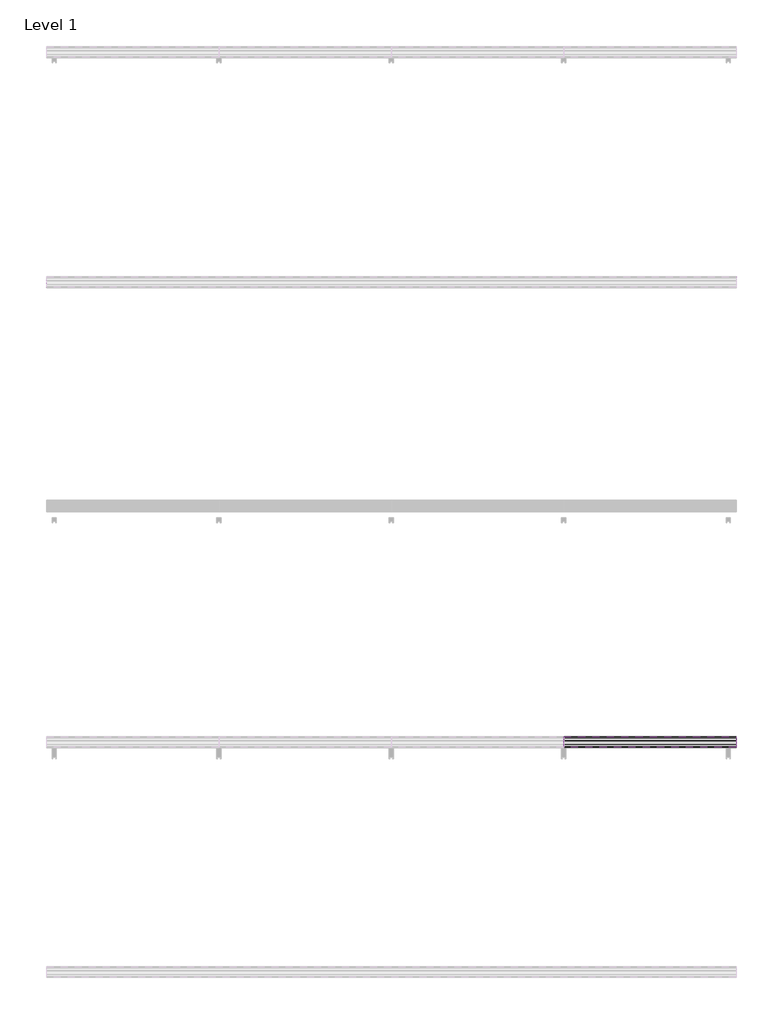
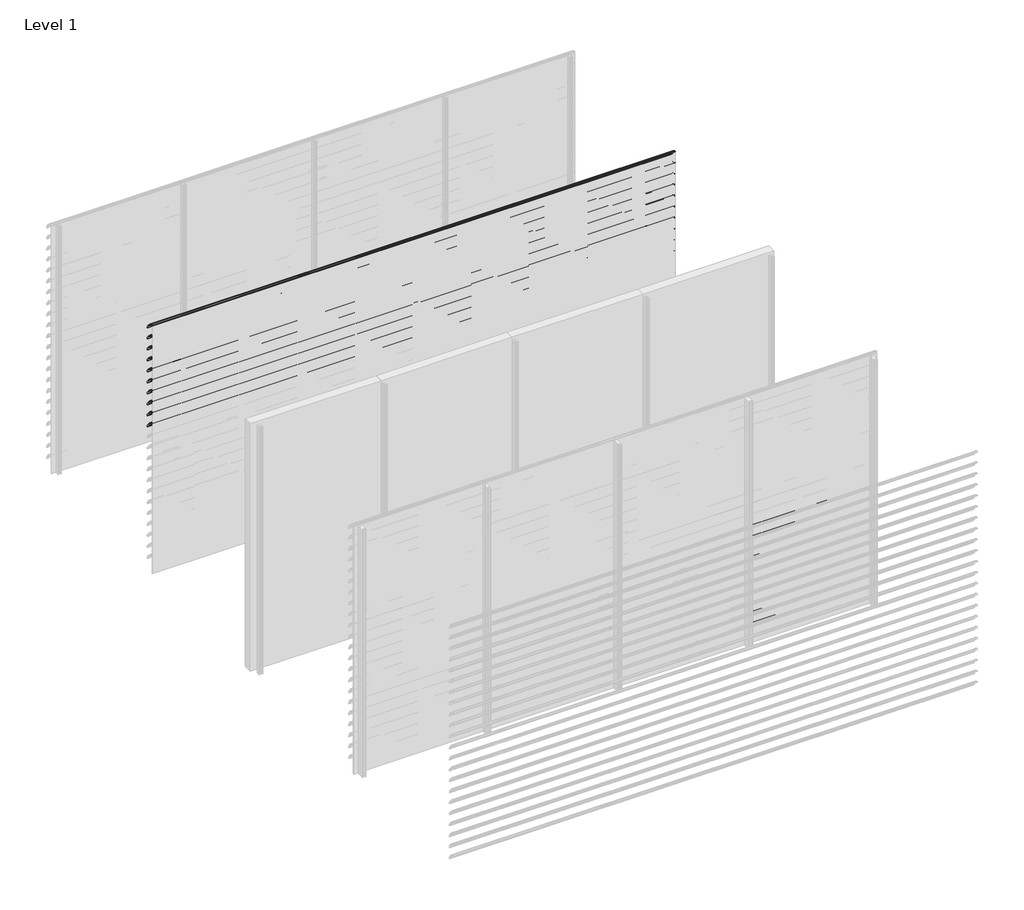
# One storey, part 41 of 57: 20 proxies.
"""IFC4 building model written with IfcOpenShell, lengths in millimetres."""

from ifc_helpers import new_model, si_unit, point, frame, frame_2d, origin, place, context, project, spatial, polyline, circle_curve, trimmed, segment, composite_curve, outline, extrude, element, save

model = new_model("IFC4")

# Units and contexts
model_context = context("Model", 3, world=origin())
ifc_project = project(units=[si_unit("LENGTHUNIT", "METRE", prefix="MILLI")], contexts=[model_context])

# Site, building, storey
site = spatial("IfcSite", under=ifc_project)
building = spatial("IfcBuilding", under=site)
storey = spatial("IfcBuildingStorey", under=building, Name="Level 1", Elevation=0.0)

# Proxies
placement = place(None, origin())
element("IfcBuildingElementProxy", 1, Name="Wall Sweeps", at=placement, inside=storey, context=model_context, shape_type="SweptSolid", body=[
    extrude(outline(composite_curve([segment(trimmed(circle_curve(frame_2d((-13993.7822526, 3016.4913792)), 4.2177474), [point((-13989.6985606, 3017.5462976))], [point((-13993.7822526, 3020.7091266))], False, "CARTESIAN"), True, "CONTINUOUS"), segment(trimmed(circle_curve(frame_2d((-14018.7150834, 2918.2536312)), 105.4456002), [point((-13993.7822526, 3020.7091266))], [point((-13971.7914298, 3012.6832099))], False, "CARTESIAN"), True, "CONTINUOUS"), segment(trimmed(circle_curve(frame_2d((-14061.7199745, 2864.0352476)), 173.7335887), [point((-13971.7914298, 3012.6832099))], [point((-13913.0720121, 2953.9637922))], False, "CARTESIAN"), True, "CONTINUOUS"), segment(trimmed(circle_curve(frame_2d((-14004.9297178, 2902.1860314)), 105.4456002), [point((-13913.0720121, 2953.9637922))], [point((-13903.6249616, 2931.4455765))], False, "CARTESIAN"), True, "CONTINUOUS"), segment(trimmed(circle_curve(frame_2d((-13907.809737, 2930.3307305)), 4.3307305), [point((-13903.6249616, 2931.4455765))], [point((-13909.0769196, 2926.189538))], False, "CARTESIAN"), True, "CONTINUOUS"), segment(polyline([(-13909.0769196, 2926.189538), (-13934.7401984, 2950.9722783)]), True, "CONTINUOUS"), segment(trimmed(circle_curve(frame_2d((-13931.3879574, 2953.2977626)), 4.079877), [point((-13934.7401984, 2950.9722783))], [point((-13930.7310597, 2957.3244091))], False, "CARTESIAN"), True, "CONTINUOUS"), segment(trimmed(circle_curve(frame_2d((-14014.6665585, 2935.2544323)), 86.7885467), [point((-13930.7310597, 2957.3244091))], [point((-13942.3028351, 2983.1683485))], True, "CARTESIAN"), True, "CONTINUOUS"), segment(polyline([(-13942.3028351, 2983.1683485), (-13940.7230099, 2985.9046861)]), True, "CONTINUOUS"), segment(trimmed(circle_curve(frame_2d((-14061.7199745, 2864.0352476)), 171.7335887), [point((-13940.7230099, 2985.9046861))], [point((-13972.7555872, 3010.9289618))], True, "CARTESIAN"), True, "CONTINUOUS"), segment(trimmed(circle_curve(frame_2d((-14018.7150834, 2918.2536312)), 103.4456002), [point((-13972.7555872, 3010.9289618))], [point((-13989.6985606, 3017.5462976))], True, "CARTESIAN"), True, "CONTINUOUS")], self_intersect=False)), frame((0.0, 0.0, 0.0), z_axis=(1.0, 0.0, 0.0), x_axis=(0.0, 1.0, 0.0)), (0.0, 0.0, 1.0), 6000.0),
])
element("IfcBuildingElementProxy", 2, Name="Wall Sweeps", at=placement, inside=storey, context=model_context, shape_type="SweptSolid", body=[
    extrude(outline(composite_curve([segment(trimmed(circle_curve(frame_2d((-13993.7822526, 2883.4913792)), 4.2177474), [point((-13989.6985606, 2884.5462976))], [point((-13993.7822526, 2887.7091266))], False, "CARTESIAN"), True, "CONTINUOUS"), segment(trimmed(circle_curve(frame_2d((-14018.7150834, 2785.2536312)), 105.4456002), [point((-13993.7822526, 2887.7091266))], [point((-13971.7914298, 2879.6832099))], False, "CARTESIAN"), True, "CONTINUOUS"), segment(trimmed(circle_curve(frame_2d((-14061.7199745, 2731.0352476)), 173.7335887), [point((-13971.7914298, 2879.6832099))], [point((-13913.0720121, 2820.9637922))], False, "CARTESIAN"), True, "CONTINUOUS"), segment(trimmed(circle_curve(frame_2d((-14004.9297178, 2769.1860314)), 105.4456002), [point((-13913.0720121, 2820.9637922))], [point((-13903.6249616, 2798.4455765))], False, "CARTESIAN"), True, "CONTINUOUS"), segment(trimmed(circle_curve(frame_2d((-13907.809737, 2797.3307305)), 4.3307305), [point((-13903.6249616, 2798.4455765))], [point((-13909.0769196, 2793.189538))], False, "CARTESIAN"), True, "CONTINUOUS"), segment(polyline([(-13909.0769196, 2793.189538), (-13934.7401984, 2817.9722783)]), True, "CONTINUOUS"), segment(trimmed(circle_curve(frame_2d((-13931.3879574, 2820.2977626)), 4.079877), [point((-13934.7401984, 2817.9722783))], [point((-13930.7310597, 2824.3244091))], False, "CARTESIAN"), True, "CONTINUOUS"), segment(trimmed(circle_curve(frame_2d((-14014.6665585, 2802.2544323)), 86.7885467), [point((-13930.7310597, 2824.3244091))], [point((-13942.3028351, 2850.1683485))], True, "CARTESIAN"), True, "CONTINUOUS"), segment(polyline([(-13942.3028351, 2850.1683485), (-13940.7230099, 2852.9046861)]), True, "CONTINUOUS"), segment(trimmed(circle_curve(frame_2d((-14061.7199745, 2731.0352476)), 171.7335887), [point((-13940.7230099, 2852.9046861))], [point((-13972.7555872, 2877.9289618))], True, "CARTESIAN"), True, "CONTINUOUS"), segment(trimmed(circle_curve(frame_2d((-14018.7150834, 2785.2536312)), 103.4456002), [point((-13972.7555872, 2877.9289618))], [point((-13989.6985606, 2884.5462976))], True, "CARTESIAN"), True, "CONTINUOUS")], self_intersect=False)), frame((0.0, 0.0, 0.0), z_axis=(1.0, 0.0, 0.0), x_axis=(0.0, 1.0, 0.0)), (0.0, 0.0, 1.0), 6000.0),
])
element("IfcBuildingElementProxy", 3, Name="Wall Sweeps", at=placement, inside=storey, context=model_context, shape_type="SweptSolid", body=[
    extrude(outline(composite_curve([segment(trimmed(circle_curve(frame_2d((-13993.7822526, 2750.4913792)), 4.2177474), [point((-13989.6985606, 2751.5462976))], [point((-13993.7822526, 2754.7091266))], False, "CARTESIAN"), True, "CONTINUOUS"), segment(trimmed(circle_curve(frame_2d((-14018.7150834, 2652.2536312)), 105.4456002), [point((-13993.7822526, 2754.7091266))], [point((-13971.7914298, 2746.6832099))], False, "CARTESIAN"), True, "CONTINUOUS"), segment(trimmed(circle_curve(frame_2d((-14061.7199745, 2598.0352476)), 173.7335887), [point((-13971.7914298, 2746.6832099))], [point((-13913.0720121, 2687.9637922))], False, "CARTESIAN"), True, "CONTINUOUS"), segment(trimmed(circle_curve(frame_2d((-14004.9297178, 2636.1860314)), 105.4456002), [point((-13913.0720121, 2687.9637922))], [point((-13903.6249616, 2665.4455765))], False, "CARTESIAN"), True, "CONTINUOUS"), segment(trimmed(circle_curve(frame_2d((-13907.809737, 2664.3307305)), 4.3307305), [point((-13903.6249616, 2665.4455765))], [point((-13909.0769196, 2660.189538))], False, "CARTESIAN"), True, "CONTINUOUS"), segment(polyline([(-13909.0769196, 2660.189538), (-13934.7401984, 2684.9722783)]), True, "CONTINUOUS"), segment(trimmed(circle_curve(frame_2d((-13931.3879574, 2687.2977626)), 4.079877), [point((-13934.7401984, 2684.9722783))], [point((-13930.7310597, 2691.3244091))], False, "CARTESIAN"), True, "CONTINUOUS"), segment(trimmed(circle_curve(frame_2d((-14014.6665585, 2669.2544323)), 86.7885467), [point((-13930.7310597, 2691.3244091))], [point((-13942.3028351, 2717.1683485))], True, "CARTESIAN"), True, "CONTINUOUS"), segment(polyline([(-13942.3028351, 2717.1683485), (-13940.7230099, 2719.9046861)]), True, "CONTINUOUS"), segment(trimmed(circle_curve(frame_2d((-14061.7199745, 2598.0352476)), 171.7335887), [point((-13940.7230099, 2719.9046861))], [point((-13972.7555872, 2744.9289618))], True, "CARTESIAN"), True, "CONTINUOUS"), segment(trimmed(circle_curve(frame_2d((-14018.7150834, 2652.2536312)), 103.4456002), [point((-13972.7555872, 2744.9289618))], [point((-13989.6985606, 2751.5462976))], True, "CARTESIAN"), True, "CONTINUOUS")], self_intersect=False)), frame((0.0, 0.0, 0.0), z_axis=(1.0, 0.0, 0.0), x_axis=(0.0, 1.0, 0.0)), (0.0, 0.0, 1.0), 6000.0),
])
element("IfcBuildingElementProxy", 4, Name="Wall Sweeps", at=placement, inside=storey, context=model_context, shape_type="SweptSolid", body=[
    extrude(outline(composite_curve([segment(trimmed(circle_curve(frame_2d((-13993.7822526, 2617.4913792)), 4.2177474), [point((-13989.6985606, 2618.5462976))], [point((-13993.7822526, 2621.7091266))], False, "CARTESIAN"), True, "CONTINUOUS"), segment(trimmed(circle_curve(frame_2d((-14018.7150834, 2519.2536312)), 105.4456002), [point((-13993.7822526, 2621.7091266))], [point((-13971.7914298, 2613.6832099))], False, "CARTESIAN"), True, "CONTINUOUS"), segment(trimmed(circle_curve(frame_2d((-14061.7199745, 2465.0352476)), 173.7335887), [point((-13971.7914298, 2613.6832099))], [point((-13913.0720121, 2554.9637922))], False, "CARTESIAN"), True, "CONTINUOUS"), segment(trimmed(circle_curve(frame_2d((-14004.9297178, 2503.1860314)), 105.4456002), [point((-13913.0720121, 2554.9637922))], [point((-13903.6249616, 2532.4455765))], False, "CARTESIAN"), True, "CONTINUOUS"), segment(trimmed(circle_curve(frame_2d((-13907.809737, 2531.3307305)), 4.3307305), [point((-13903.6249616, 2532.4455765))], [point((-13909.0769196, 2527.189538))], False, "CARTESIAN"), True, "CONTINUOUS"), segment(polyline([(-13909.0769196, 2527.189538), (-13934.7401984, 2551.9722783)]), True, "CONTINUOUS"), segment(trimmed(circle_curve(frame_2d((-13931.3879574, 2554.2977626)), 4.079877), [point((-13934.7401984, 2551.9722783))], [point((-13930.7310597, 2558.3244091))], False, "CARTESIAN"), True, "CONTINUOUS"), segment(trimmed(circle_curve(frame_2d((-14014.6665585, 2536.2544323)), 86.7885467), [point((-13930.7310597, 2558.3244091))], [point((-13942.3028351, 2584.1683485))], True, "CARTESIAN"), True, "CONTINUOUS"), segment(polyline([(-13942.3028351, 2584.1683485), (-13940.7230099, 2586.9046861)]), True, "CONTINUOUS"), segment(trimmed(circle_curve(frame_2d((-14061.7199745, 2465.0352476)), 171.7335887), [point((-13940.7230099, 2586.9046861))], [point((-13972.7555872, 2611.9289618))], True, "CARTESIAN"), True, "CONTINUOUS"), segment(trimmed(circle_curve(frame_2d((-14018.7150834, 2519.2536312)), 103.4456002), [point((-13972.7555872, 2611.9289618))], [point((-13989.6985606, 2618.5462976))], True, "CARTESIAN"), True, "CONTINUOUS")], self_intersect=False)), frame((0.0, 0.0, 0.0), z_axis=(1.0, 0.0, 0.0), x_axis=(0.0, 1.0, 0.0)), (0.0, 0.0, 1.0), 6000.0),
])
element("IfcBuildingElementProxy", 5, Name="Wall Sweeps", at=placement, inside=storey, context=model_context, shape_type="SweptSolid", body=[
    extrude(outline(composite_curve([segment(trimmed(circle_curve(frame_2d((-13993.7822526, 2484.4913792)), 4.2177474), [point((-13989.6985606, 2485.5462976))], [point((-13993.7822526, 2488.7091266))], False, "CARTESIAN"), True, "CONTINUOUS"), segment(trimmed(circle_curve(frame_2d((-14018.7150834, 2386.2536312)), 105.4456002), [point((-13993.7822526, 2488.7091266))], [point((-13971.7914298, 2480.6832099))], False, "CARTESIAN"), True, "CONTINUOUS"), segment(trimmed(circle_curve(frame_2d((-14061.7199745, 2332.0352476)), 173.7335887), [point((-13971.7914298, 2480.6832099))], [point((-13913.0720121, 2421.9637922))], False, "CARTESIAN"), True, "CONTINUOUS"), segment(trimmed(circle_curve(frame_2d((-14004.9297178, 2370.1860314)), 105.4456002), [point((-13913.0720121, 2421.9637922))], [point((-13903.6249616, 2399.4455765))], False, "CARTESIAN"), True, "CONTINUOUS"), segment(trimmed(circle_curve(frame_2d((-13907.809737, 2398.3307305)), 4.3307305), [point((-13903.6249616, 2399.4455765))], [point((-13909.0769196, 2394.189538))], False, "CARTESIAN"), True, "CONTINUOUS"), segment(polyline([(-13909.0769196, 2394.189538), (-13934.7401984, 2418.9722783)]), True, "CONTINUOUS"), segment(trimmed(circle_curve(frame_2d((-13931.3879574, 2421.2977626)), 4.079877), [point((-13934.7401984, 2418.9722783))], [point((-13930.7310597, 2425.3244091))], False, "CARTESIAN"), True, "CONTINUOUS"), segment(trimmed(circle_curve(frame_2d((-14014.6665585, 2403.2544323)), 86.7885467), [point((-13930.7310597, 2425.3244091))], [point((-13942.3028351, 2451.1683485))], True, "CARTESIAN"), True, "CONTINUOUS"), segment(polyline([(-13942.3028351, 2451.1683485), (-13940.7230099, 2453.9046861)]), True, "CONTINUOUS"), segment(trimmed(circle_curve(frame_2d((-14061.7199745, 2332.0352476)), 171.7335887), [point((-13940.7230099, 2453.9046861))], [point((-13972.7555872, 2478.9289618))], True, "CARTESIAN"), True, "CONTINUOUS"), segment(trimmed(circle_curve(frame_2d((-14018.7150834, 2386.2536312)), 103.4456002), [point((-13972.7555872, 2478.9289618))], [point((-13989.6985606, 2485.5462976))], True, "CARTESIAN"), True, "CONTINUOUS")], self_intersect=False)), frame((0.0, 0.0, 0.0), z_axis=(1.0, 0.0, 0.0), x_axis=(0.0, 1.0, 0.0)), (0.0, 0.0, 1.0), 6000.0),
])
element("IfcBuildingElementProxy", 6, Name="Wall Sweeps", at=placement, inside=storey, context=model_context, shape_type="SweptSolid", body=[
    extrude(outline(composite_curve([segment(trimmed(circle_curve(frame_2d((-13993.7822526, 2351.4913792)), 4.2177474), [point((-13989.6985606, 2352.5462976))], [point((-13993.7822526, 2355.7091266))], False, "CARTESIAN"), True, "CONTINUOUS"), segment(trimmed(circle_curve(frame_2d((-14018.7150834, 2253.2536312)), 105.4456002), [point((-13993.7822526, 2355.7091266))], [point((-13971.7914298, 2347.6832099))], False, "CARTESIAN"), True, "CONTINUOUS"), segment(trimmed(circle_curve(frame_2d((-14061.7199745, 2199.0352476)), 173.7335887), [point((-13971.7914298, 2347.6832099))], [point((-13913.0720121, 2288.9637922))], False, "CARTESIAN"), True, "CONTINUOUS"), segment(trimmed(circle_curve(frame_2d((-14004.9297178, 2237.1860314)), 105.4456002), [point((-13913.0720121, 2288.9637922))], [point((-13903.6249616, 2266.4455765))], False, "CARTESIAN"), True, "CONTINUOUS"), segment(trimmed(circle_curve(frame_2d((-13907.809737, 2265.3307305)), 4.3307305), [point((-13903.6249616, 2266.4455765))], [point((-13909.0769196, 2261.189538))], False, "CARTESIAN"), True, "CONTINUOUS"), segment(polyline([(-13909.0769196, 2261.189538), (-13934.7401984, 2285.9722783)]), True, "CONTINUOUS"), segment(trimmed(circle_curve(frame_2d((-13931.3879574, 2288.2977626)), 4.079877), [point((-13934.7401984, 2285.9722783))], [point((-13930.7310597, 2292.3244091))], False, "CARTESIAN"), True, "CONTINUOUS"), segment(trimmed(circle_curve(frame_2d((-14014.6665585, 2270.2544323)), 86.7885467), [point((-13930.7310597, 2292.3244091))], [point((-13942.3028351, 2318.1683485))], True, "CARTESIAN"), True, "CONTINUOUS"), segment(polyline([(-13942.3028351, 2318.1683485), (-13940.7230099, 2320.9046861)]), True, "CONTINUOUS"), segment(trimmed(circle_curve(frame_2d((-14061.7199745, 2199.0352476)), 171.7335887), [point((-13940.7230099, 2320.9046861))], [point((-13972.7555872, 2345.9289618))], True, "CARTESIAN"), True, "CONTINUOUS"), segment(trimmed(circle_curve(frame_2d((-14018.7150834, 2253.2536312)), 103.4456002), [point((-13972.7555872, 2345.9289618))], [point((-13989.6985606, 2352.5462976))], True, "CARTESIAN"), True, "CONTINUOUS")], self_intersect=False)), frame((0.0, 0.0, 0.0), z_axis=(1.0, 0.0, 0.0), x_axis=(0.0, 1.0, 0.0)), (0.0, 0.0, 1.0), 6000.0),
])
element("IfcBuildingElementProxy", 7, Name="Wall Sweeps", at=placement, inside=storey, context=model_context, shape_type="SweptSolid", body=[
    extrude(outline(composite_curve([segment(trimmed(circle_curve(frame_2d((-13993.7822526, 2218.4913792)), 4.2177474), [point((-13989.6985606, 2219.5462976))], [point((-13993.7822526, 2222.7091266))], False, "CARTESIAN"), True, "CONTINUOUS"), segment(trimmed(circle_curve(frame_2d((-14018.7150834, 2120.2536312)), 105.4456002), [point((-13993.7822526, 2222.7091266))], [point((-13971.7914298, 2214.6832099))], False, "CARTESIAN"), True, "CONTINUOUS"), segment(trimmed(circle_curve(frame_2d((-14061.7199745, 2066.0352476)), 173.7335887), [point((-13971.7914298, 2214.6832099))], [point((-13913.0720121, 2155.9637922))], False, "CARTESIAN"), True, "CONTINUOUS"), segment(trimmed(circle_curve(frame_2d((-14004.9297178, 2104.1860314)), 105.4456002), [point((-13913.0720121, 2155.9637922))], [point((-13903.6249616, 2133.4455765))], False, "CARTESIAN"), True, "CONTINUOUS"), segment(trimmed(circle_curve(frame_2d((-13907.809737, 2132.3307305)), 4.3307305), [point((-13903.6249616, 2133.4455765))], [point((-13909.0769196, 2128.189538))], False, "CARTESIAN"), True, "CONTINUOUS"), segment(polyline([(-13909.0769196, 2128.189538), (-13934.7401984, 2152.9722783)]), True, "CONTINUOUS"), segment(trimmed(circle_curve(frame_2d((-13931.3879574, 2155.2977626)), 4.079877), [point((-13934.7401984, 2152.9722783))], [point((-13930.7310597, 2159.3244091))], False, "CARTESIAN"), True, "CONTINUOUS"), segment(trimmed(circle_curve(frame_2d((-14014.6665585, 2137.2544323)), 86.7885467), [point((-13930.7310597, 2159.3244091))], [point((-13942.3028351, 2185.1683485))], True, "CARTESIAN"), True, "CONTINUOUS"), segment(polyline([(-13942.3028351, 2185.1683485), (-13940.7230099, 2187.9046861)]), True, "CONTINUOUS"), segment(trimmed(circle_curve(frame_2d((-14061.7199745, 2066.0352476)), 171.7335887), [point((-13940.7230099, 2187.9046861))], [point((-13972.7555872, 2212.9289618))], True, "CARTESIAN"), True, "CONTINUOUS"), segment(trimmed(circle_curve(frame_2d((-14018.7150834, 2120.2536312)), 103.4456002), [point((-13972.7555872, 2212.9289618))], [point((-13989.6985606, 2219.5462976))], True, "CARTESIAN"), True, "CONTINUOUS")], self_intersect=False)), frame((0.0, 0.0, 0.0), z_axis=(1.0, 0.0, 0.0), x_axis=(0.0, 1.0, 0.0)), (0.0, 0.0, 1.0), 6000.0),
])
element("IfcBuildingElementProxy", 8, Name="Wall Sweeps", at=placement, inside=storey, context=model_context, shape_type="SweptSolid", body=[
    extrude(outline(composite_curve([segment(trimmed(circle_curve(frame_2d((-13993.7822526, 2085.4913792)), 4.2177474), [point((-13989.6985606, 2086.5462976))], [point((-13993.7822526, 2089.7091266))], False, "CARTESIAN"), True, "CONTINUOUS"), segment(trimmed(circle_curve(frame_2d((-14018.7150834, 1987.2536312)), 105.4456002), [point((-13993.7822526, 2089.7091266))], [point((-13971.7914298, 2081.6832099))], False, "CARTESIAN"), True, "CONTINUOUS"), segment(trimmed(circle_curve(frame_2d((-14061.7199745, 1933.0352476)), 173.7335887), [point((-13971.7914298, 2081.6832099))], [point((-13913.0720121, 2022.9637922))], False, "CARTESIAN"), True, "CONTINUOUS"), segment(trimmed(circle_curve(frame_2d((-14004.9297178, 1971.1860314)), 105.4456002), [point((-13913.0720121, 2022.9637922))], [point((-13903.6249616, 2000.4455765))], False, "CARTESIAN"), True, "CONTINUOUS"), segment(trimmed(circle_curve(frame_2d((-13907.809737, 1999.3307305)), 4.3307305), [point((-13903.6249616, 2000.4455765))], [point((-13909.0769196, 1995.189538))], False, "CARTESIAN"), True, "CONTINUOUS"), segment(polyline([(-13909.0769196, 1995.189538), (-13934.7401984, 2019.9722783)]), True, "CONTINUOUS"), segment(trimmed(circle_curve(frame_2d((-13931.3879574, 2022.2977626)), 4.079877), [point((-13934.7401984, 2019.9722783))], [point((-13930.7310597, 2026.3244091))], False, "CARTESIAN"), True, "CONTINUOUS"), segment(trimmed(circle_curve(frame_2d((-14014.6665585, 2004.2544323)), 86.7885467), [point((-13930.7310597, 2026.3244091))], [point((-13942.3028351, 2052.1683485))], True, "CARTESIAN"), True, "CONTINUOUS"), segment(polyline([(-13942.3028351, 2052.1683485), (-13940.7230099, 2054.9046861)]), True, "CONTINUOUS"), segment(trimmed(circle_curve(frame_2d((-14061.7199745, 1933.0352476)), 171.7335887), [point((-13940.7230099, 2054.9046861))], [point((-13972.7555872, 2079.9289618))], True, "CARTESIAN"), True, "CONTINUOUS"), segment(trimmed(circle_curve(frame_2d((-14018.7150834, 1987.2536312)), 103.4456002), [point((-13972.7555872, 2079.9289618))], [point((-13989.6985606, 2086.5462976))], True, "CARTESIAN"), True, "CONTINUOUS")], self_intersect=False)), frame((0.0, 0.0, 0.0), z_axis=(1.0, 0.0, 0.0), x_axis=(0.0, 1.0, 0.0)), (0.0, 0.0, 1.0), 6000.0),
])
element("IfcBuildingElementProxy", 9, Name="Wall Sweeps", at=placement, inside=storey, context=model_context, shape_type="SweptSolid", body=[
    extrude(outline(composite_curve([segment(trimmed(circle_curve(frame_2d((-13993.7822526, 1952.4913792)), 4.2177474), [point((-13989.6985606, 1953.5462976))], [point((-13993.7822526, 1956.7091266))], False, "CARTESIAN"), True, "CONTINUOUS"), segment(trimmed(circle_curve(frame_2d((-14018.7150834, 1854.2536312)), 105.4456002), [point((-13993.7822526, 1956.7091266))], [point((-13971.7914298, 1948.6832099))], False, "CARTESIAN"), True, "CONTINUOUS"), segment(trimmed(circle_curve(frame_2d((-14061.7199745, 1800.0352476)), 173.7335887), [point((-13971.7914298, 1948.6832099))], [point((-13913.0720121, 1889.9637922))], False, "CARTESIAN"), True, "CONTINUOUS"), segment(trimmed(circle_curve(frame_2d((-14004.9297178, 1838.1860314)), 105.4456002), [point((-13913.0720121, 1889.9637922))], [point((-13903.6249616, 1867.4455765))], False, "CARTESIAN"), True, "CONTINUOUS"), segment(trimmed(circle_curve(frame_2d((-13907.809737, 1866.3307305)), 4.3307305), [point((-13903.6249616, 1867.4455765))], [point((-13909.0769196, 1862.189538))], False, "CARTESIAN"), True, "CONTINUOUS"), segment(polyline([(-13909.0769196, 1862.189538), (-13934.7401984, 1886.9722783)]), True, "CONTINUOUS"), segment(trimmed(circle_curve(frame_2d((-13931.3879574, 1889.2977626)), 4.079877), [point((-13934.7401984, 1886.9722783))], [point((-13930.7310597, 1893.3244091))], False, "CARTESIAN"), True, "CONTINUOUS"), segment(trimmed(circle_curve(frame_2d((-14014.6665585, 1871.2544323)), 86.7885467), [point((-13930.7310597, 1893.3244091))], [point((-13942.3028351, 1919.1683485))], True, "CARTESIAN"), True, "CONTINUOUS"), segment(polyline([(-13942.3028351, 1919.1683485), (-13940.7230099, 1921.9046861)]), True, "CONTINUOUS"), segment(trimmed(circle_curve(frame_2d((-14061.7199745, 1800.0352476)), 171.7335887), [point((-13940.7230099, 1921.9046861))], [point((-13972.7555872, 1946.9289618))], True, "CARTESIAN"), True, "CONTINUOUS"), segment(trimmed(circle_curve(frame_2d((-14018.7150834, 1854.2536312)), 103.4456002), [point((-13972.7555872, 1946.9289618))], [point((-13989.6985606, 1953.5462976))], True, "CARTESIAN"), True, "CONTINUOUS")], self_intersect=False)), frame((0.0, 0.0, 0.0), z_axis=(1.0, 0.0, 0.0), x_axis=(0.0, 1.0, 0.0)), (0.0, 0.0, 1.0), 6000.0),
])
element("IfcBuildingElementProxy", 10, Name="Wall Sweeps", at=placement, inside=storey, context=model_context, shape_type="SweptSolid", body=[
    extrude(outline(composite_curve([segment(trimmed(circle_curve(frame_2d((-13993.7822526, 1819.4913792)), 4.2177474), [point((-13989.6985606, 1820.5462976))], [point((-13993.7822526, 1823.7091266))], False, "CARTESIAN"), True, "CONTINUOUS"), segment(trimmed(circle_curve(frame_2d((-14018.7150834, 1721.2536312)), 105.4456002), [point((-13993.7822526, 1823.7091266))], [point((-13971.7914298, 1815.6832099))], False, "CARTESIAN"), True, "CONTINUOUS"), segment(trimmed(circle_curve(frame_2d((-14061.7199745, 1667.0352476)), 173.7335887), [point((-13971.7914298, 1815.6832099))], [point((-13913.0720121, 1756.9637922))], False, "CARTESIAN"), True, "CONTINUOUS"), segment(trimmed(circle_curve(frame_2d((-14004.9297178, 1705.1860314)), 105.4456002), [point((-13913.0720121, 1756.9637922))], [point((-13903.6249616, 1734.4455765))], False, "CARTESIAN"), True, "CONTINUOUS"), segment(trimmed(circle_curve(frame_2d((-13907.809737, 1733.3307305)), 4.3307305), [point((-13903.6249616, 1734.4455765))], [point((-13909.0769196, 1729.189538))], False, "CARTESIAN"), True, "CONTINUOUS"), segment(polyline([(-13909.0769196, 1729.189538), (-13934.7401984, 1753.9722783)]), True, "CONTINUOUS"), segment(trimmed(circle_curve(frame_2d((-13931.3879574, 1756.2977626)), 4.079877), [point((-13934.7401984, 1753.9722783))], [point((-13930.7310597, 1760.3244091))], False, "CARTESIAN"), True, "CONTINUOUS"), segment(trimmed(circle_curve(frame_2d((-14014.6665585, 1738.2544323)), 86.7885467), [point((-13930.7310597, 1760.3244091))], [point((-13942.3028351, 1786.1683485))], True, "CARTESIAN"), True, "CONTINUOUS"), segment(polyline([(-13942.3028351, 1786.1683485), (-13940.7230099, 1788.9046861)]), True, "CONTINUOUS"), segment(trimmed(circle_curve(frame_2d((-14061.7199745, 1667.0352476)), 171.7335887), [point((-13940.7230099, 1788.9046861))], [point((-13972.7555872, 1813.9289618))], True, "CARTESIAN"), True, "CONTINUOUS"), segment(trimmed(circle_curve(frame_2d((-14018.7150834, 1721.2536312)), 103.4456002), [point((-13972.7555872, 1813.9289618))], [point((-13989.6985606, 1820.5462976))], True, "CARTESIAN"), True, "CONTINUOUS")], self_intersect=False)), frame((0.0, 0.0, 0.0), z_axis=(1.0, 0.0, 0.0), x_axis=(0.0, 1.0, 0.0)), (0.0, 0.0, 1.0), 6000.0),
])
element("IfcBuildingElementProxy", 11, Name="Wall Sweeps", at=placement, inside=storey, context=model_context, shape_type="SweptSolid", body=[
    extrude(outline(composite_curve([segment(trimmed(circle_curve(frame_2d((-17993.7822526, 1420.4913792)), 4.2177474), [point((-17989.6985606, 1421.5462976))], [point((-17993.7822526, 1424.7091266))], False, "CARTESIAN"), True, "CONTINUOUS"), segment(trimmed(circle_curve(frame_2d((-18018.7150834, 1322.2536312)), 105.4456002), [point((-17993.7822526, 1424.7091266))], [point((-17971.7914298, 1416.6832099))], False, "CARTESIAN"), True, "CONTINUOUS"), segment(trimmed(circle_curve(frame_2d((-18061.7199745, 1268.0352476)), 173.7335887), [point((-17971.7914298, 1416.6832099))], [point((-17913.0720121, 1357.9637922))], False, "CARTESIAN"), True, "CONTINUOUS"), segment(trimmed(circle_curve(frame_2d((-18004.9297178, 1306.1860314)), 105.4456002), [point((-17913.0720121, 1357.9637922))], [point((-17903.6249616, 1335.4455765))], False, "CARTESIAN"), True, "CONTINUOUS"), segment(trimmed(circle_curve(frame_2d((-17907.809737, 1334.3307305)), 4.3307305), [point((-17903.6249616, 1335.4455765))], [point((-17909.0769196, 1330.189538))], False, "CARTESIAN"), True, "CONTINUOUS"), segment(polyline([(-17909.0769196, 1330.189538), (-17934.7401984, 1354.9722783)]), True, "CONTINUOUS"), segment(trimmed(circle_curve(frame_2d((-17931.3879574, 1357.2977626)), 4.079877), [point((-17934.7401984, 1354.9722783))], [point((-17930.7310597, 1361.3244091))], False, "CARTESIAN"), True, "CONTINUOUS"), segment(trimmed(circle_curve(frame_2d((-18014.6665585, 1339.2544323)), 86.7885467), [point((-17930.7310597, 1361.3244091))], [point((-17942.3028351, 1387.1683485))], True, "CARTESIAN"), True, "CONTINUOUS"), segment(polyline([(-17942.3028351, 1387.1683485), (-17940.7230099, 1389.9046861)]), True, "CONTINUOUS"), segment(trimmed(circle_curve(frame_2d((-18061.7199745, 1268.0352476)), 171.7335887), [point((-17940.7230099, 1389.9046861))], [point((-17972.7555872, 1414.9289618))], True, "CARTESIAN"), True, "CONTINUOUS"), segment(trimmed(circle_curve(frame_2d((-18018.7150834, 1322.2536312)), 103.4456002), [point((-17972.7555872, 1414.9289618))], [point((-17989.6985606, 1421.5462976))], True, "CARTESIAN"), True, "CONTINUOUS")], self_intersect=False)), frame((4500.0, 0.0, 0.0), z_axis=(1.0, 0.0, 0.0), x_axis=(0.0, 1.0, 0.0)), (0.0, 0.0, 1.0), 1500.0),
])
element("IfcBuildingElementProxy", 12, Name="Wall Sweeps", at=placement, inside=storey, context=model_context, shape_type="SweptSolid", body=[
    extrude(outline(composite_curve([segment(trimmed(circle_curve(frame_2d((-17993.7822526, 1287.4913792)), 4.2177474), [point((-17989.6985606, 1288.5462976))], [point((-17993.7822526, 1291.7091266))], False, "CARTESIAN"), True, "CONTINUOUS"), segment(trimmed(circle_curve(frame_2d((-18018.7150834, 1189.2536312)), 105.4456002), [point((-17993.7822526, 1291.7091266))], [point((-17971.7914298, 1283.6832099))], False, "CARTESIAN"), True, "CONTINUOUS"), segment(trimmed(circle_curve(frame_2d((-18061.7199745, 1135.0352476)), 173.7335887), [point((-17971.7914298, 1283.6832099))], [point((-17913.0720121, 1224.9637922))], False, "CARTESIAN"), True, "CONTINUOUS"), segment(trimmed(circle_curve(frame_2d((-18004.9297178, 1173.1860314)), 105.4456002), [point((-17913.0720121, 1224.9637922))], [point((-17903.6249616, 1202.4455765))], False, "CARTESIAN"), True, "CONTINUOUS"), segment(trimmed(circle_curve(frame_2d((-17907.809737, 1201.3307305)), 4.3307305), [point((-17903.6249616, 1202.4455765))], [point((-17909.0769196, 1197.189538))], False, "CARTESIAN"), True, "CONTINUOUS"), segment(polyline([(-17909.0769196, 1197.189538), (-17934.7401984, 1221.9722783)]), True, "CONTINUOUS"), segment(trimmed(circle_curve(frame_2d((-17931.3879574, 1224.2977626)), 4.079877), [point((-17934.7401984, 1221.9722783))], [point((-17930.7310597, 1228.3244091))], False, "CARTESIAN"), True, "CONTINUOUS"), segment(trimmed(circle_curve(frame_2d((-18014.6665585, 1206.2544323)), 86.7885467), [point((-17930.7310597, 1228.3244091))], [point((-17942.3028351, 1254.1683485))], True, "CARTESIAN"), True, "CONTINUOUS"), segment(polyline([(-17942.3028351, 1254.1683485), (-17940.7230099, 1256.9046861)]), True, "CONTINUOUS"), segment(trimmed(circle_curve(frame_2d((-18061.7199745, 1135.0352476)), 171.7335887), [point((-17940.7230099, 1256.9046861))], [point((-17972.7555872, 1281.9289618))], True, "CARTESIAN"), True, "CONTINUOUS"), segment(trimmed(circle_curve(frame_2d((-18018.7150834, 1189.2536312)), 103.4456002), [point((-17972.7555872, 1281.9289618))], [point((-17989.6985606, 1288.5462976))], True, "CARTESIAN"), True, "CONTINUOUS")], self_intersect=False)), frame((4500.0, 0.0, 0.0), z_axis=(1.0, 0.0, 0.0), x_axis=(0.0, 1.0, 0.0)), (0.0, 0.0, 1.0), 1500.0),
])
element("IfcBuildingElementProxy", 13, Name="Wall Sweeps", at=placement, inside=storey, context=model_context, shape_type="SweptSolid", body=[
    extrude(outline(composite_curve([segment(trimmed(circle_curve(frame_2d((-17993.7822526, 1154.4913792)), 4.2177474), [point((-17989.6985606, 1155.5462976))], [point((-17993.7822526, 1158.7091266))], False, "CARTESIAN"), True, "CONTINUOUS"), segment(trimmed(circle_curve(frame_2d((-18018.7150834, 1056.2536312)), 105.4456002), [point((-17993.7822526, 1158.7091266))], [point((-17971.7914298, 1150.6832099))], False, "CARTESIAN"), True, "CONTINUOUS"), segment(trimmed(circle_curve(frame_2d((-18061.7199745, 1002.0352476)), 173.7335887), [point((-17971.7914298, 1150.6832099))], [point((-17913.0720121, 1091.9637922))], False, "CARTESIAN"), True, "CONTINUOUS"), segment(trimmed(circle_curve(frame_2d((-18004.9297178, 1040.1860314)), 105.4456002), [point((-17913.0720121, 1091.9637922))], [point((-17903.6249616, 1069.4455765))], False, "CARTESIAN"), True, "CONTINUOUS"), segment(trimmed(circle_curve(frame_2d((-17907.809737, 1068.3307305)), 4.3307305), [point((-17903.6249616, 1069.4455765))], [point((-17909.0769196, 1064.189538))], False, "CARTESIAN"), True, "CONTINUOUS"), segment(polyline([(-17909.0769196, 1064.189538), (-17934.7401984, 1088.9722783)]), True, "CONTINUOUS"), segment(trimmed(circle_curve(frame_2d((-17931.3879574, 1091.2977626)), 4.079877), [point((-17934.7401984, 1088.9722783))], [point((-17930.7310597, 1095.3244091))], False, "CARTESIAN"), True, "CONTINUOUS"), segment(trimmed(circle_curve(frame_2d((-18014.6665585, 1073.2544323)), 86.7885467), [point((-17930.7310597, 1095.3244091))], [point((-17942.3028351, 1121.1683485))], True, "CARTESIAN"), True, "CONTINUOUS"), segment(polyline([(-17942.3028351, 1121.1683485), (-17940.7230099, 1123.9046861)]), True, "CONTINUOUS"), segment(trimmed(circle_curve(frame_2d((-18061.7199745, 1002.0352476)), 171.7335887), [point((-17940.7230099, 1123.9046861))], [point((-17972.7555872, 1148.9289618))], True, "CARTESIAN"), True, "CONTINUOUS"), segment(trimmed(circle_curve(frame_2d((-18018.7150834, 1056.2536312)), 103.4456002), [point((-17972.7555872, 1148.9289618))], [point((-17989.6985606, 1155.5462976))], True, "CARTESIAN"), True, "CONTINUOUS")], self_intersect=False)), frame((4500.0, 0.0, 0.0), z_axis=(1.0, 0.0, 0.0), x_axis=(0.0, 1.0, 0.0)), (0.0, 0.0, 1.0), 1500.0),
])
element("IfcBuildingElementProxy", 14, Name="Wall Sweeps", at=placement, inside=storey, context=model_context, shape_type="SweptSolid", body=[
    extrude(outline(composite_curve([segment(trimmed(circle_curve(frame_2d((-17993.7822526, 1021.4913792)), 4.2177474), [point((-17989.6985606, 1022.5462976))], [point((-17993.7822526, 1025.7091266))], False, "CARTESIAN"), True, "CONTINUOUS"), segment(trimmed(circle_curve(frame_2d((-18018.7150834, 923.2536312)), 105.4456002), [point((-17993.7822526, 1025.7091266))], [point((-17971.7914298, 1017.6832099))], False, "CARTESIAN"), True, "CONTINUOUS"), segment(trimmed(circle_curve(frame_2d((-18061.7199745, 869.0352476)), 173.7335887), [point((-17971.7914298, 1017.6832099))], [point((-17913.0720121, 958.9637922))], False, "CARTESIAN"), True, "CONTINUOUS"), segment(trimmed(circle_curve(frame_2d((-18004.9297178, 907.1860314)), 105.4456002), [point((-17913.0720121, 958.9637922))], [point((-17903.6249616, 936.4455765))], False, "CARTESIAN"), True, "CONTINUOUS"), segment(trimmed(circle_curve(frame_2d((-17907.809737, 935.3307305)), 4.3307305), [point((-17903.6249616, 936.4455765))], [point((-17909.0769196, 931.189538))], False, "CARTESIAN"), True, "CONTINUOUS"), segment(polyline([(-17909.0769196, 931.189538), (-17934.7401984, 955.9722783)]), True, "CONTINUOUS"), segment(trimmed(circle_curve(frame_2d((-17931.3879574, 958.2977626)), 4.079877), [point((-17934.7401984, 955.9722783))], [point((-17930.7310597, 962.3244091))], False, "CARTESIAN"), True, "CONTINUOUS"), segment(trimmed(circle_curve(frame_2d((-18014.6665585, 940.2544323)), 86.7885467), [point((-17930.7310597, 962.3244091))], [point((-17942.3028351, 988.1683485))], True, "CARTESIAN"), True, "CONTINUOUS"), segment(polyline([(-17942.3028351, 988.1683485), (-17940.7230099, 990.9046861)]), True, "CONTINUOUS"), segment(trimmed(circle_curve(frame_2d((-18061.7199745, 869.0352476)), 171.7335887), [point((-17940.7230099, 990.9046861))], [point((-17972.7555872, 1015.9289618))], True, "CARTESIAN"), True, "CONTINUOUS"), segment(trimmed(circle_curve(frame_2d((-18018.7150834, 923.2536312)), 103.4456002), [point((-17972.7555872, 1015.9289618))], [point((-17989.6985606, 1022.5462976))], True, "CARTESIAN"), True, "CONTINUOUS")], self_intersect=False)), frame((4500.0, 0.0, 0.0), z_axis=(1.0, 0.0, 0.0), x_axis=(0.0, 1.0, 0.0)), (0.0, 0.0, 1.0), 1500.0),
])
element("IfcBuildingElementProxy", 15, Name="Wall Sweeps", at=placement, inside=storey, context=model_context, shape_type="SweptSolid", body=[
    extrude(outline(composite_curve([segment(trimmed(circle_curve(frame_2d((-17993.7822526, 888.4913792)), 4.2177474), [point((-17989.6985606, 889.5462976))], [point((-17993.7822526, 892.7091266))], False, "CARTESIAN"), True, "CONTINUOUS"), segment(trimmed(circle_curve(frame_2d((-18018.7150834, 790.2536312)), 105.4456002), [point((-17993.7822526, 892.7091266))], [point((-17971.7914298, 884.6832099))], False, "CARTESIAN"), True, "CONTINUOUS"), segment(trimmed(circle_curve(frame_2d((-18061.7199745, 736.0352476)), 173.7335887), [point((-17971.7914298, 884.6832099))], [point((-17913.0720121, 825.9637922))], False, "CARTESIAN"), True, "CONTINUOUS"), segment(trimmed(circle_curve(frame_2d((-18004.9297178, 774.1860314)), 105.4456002), [point((-17913.0720121, 825.9637922))], [point((-17903.6249616, 803.4455765))], False, "CARTESIAN"), True, "CONTINUOUS"), segment(trimmed(circle_curve(frame_2d((-17907.809737, 802.3307305)), 4.3307305), [point((-17903.6249616, 803.4455765))], [point((-17909.0769196, 798.189538))], False, "CARTESIAN"), True, "CONTINUOUS"), segment(polyline([(-17909.0769196, 798.189538), (-17934.7401984, 822.9722783)]), True, "CONTINUOUS"), segment(trimmed(circle_curve(frame_2d((-17931.3879574, 825.2977626)), 4.079877), [point((-17934.7401984, 822.9722783))], [point((-17930.7310597, 829.3244091))], False, "CARTESIAN"), True, "CONTINUOUS"), segment(trimmed(circle_curve(frame_2d((-18014.6665585, 807.2544323)), 86.7885467), [point((-17930.7310597, 829.3244091))], [point((-17942.3028351, 855.1683485))], True, "CARTESIAN"), True, "CONTINUOUS"), segment(polyline([(-17942.3028351, 855.1683485), (-17940.7230099, 857.9046861)]), True, "CONTINUOUS"), segment(trimmed(circle_curve(frame_2d((-18061.7199745, 736.0352476)), 171.7335887), [point((-17940.7230099, 857.9046861))], [point((-17972.7555872, 882.9289618))], True, "CARTESIAN"), True, "CONTINUOUS"), segment(trimmed(circle_curve(frame_2d((-18018.7150834, 790.2536312)), 103.4456002), [point((-17972.7555872, 882.9289618))], [point((-17989.6985606, 889.5462976))], True, "CARTESIAN"), True, "CONTINUOUS")], self_intersect=False)), frame((4500.0, 0.0, 0.0), z_axis=(1.0, 0.0, 0.0), x_axis=(0.0, 1.0, 0.0)), (0.0, 0.0, 1.0), 1500.0),
])
element("IfcBuildingElementProxy", 16, Name="Wall Sweeps", at=placement, inside=storey, context=model_context, shape_type="SweptSolid", body=[
    extrude(outline(composite_curve([segment(trimmed(circle_curve(frame_2d((-17993.7822526, 755.4913792)), 4.2177474), [point((-17989.6985606, 756.5462976))], [point((-17993.7822526, 759.7091266))], False, "CARTESIAN"), True, "CONTINUOUS"), segment(trimmed(circle_curve(frame_2d((-18018.7150834, 657.2536312)), 105.4456002), [point((-17993.7822526, 759.7091266))], [point((-17971.7914298, 751.6832099))], False, "CARTESIAN"), True, "CONTINUOUS"), segment(trimmed(circle_curve(frame_2d((-18061.7199745, 603.0352476)), 173.7335887), [point((-17971.7914298, 751.6832099))], [point((-17913.0720121, 692.9637922))], False, "CARTESIAN"), True, "CONTINUOUS"), segment(trimmed(circle_curve(frame_2d((-18004.9297178, 641.1860314)), 105.4456002), [point((-17913.0720121, 692.9637922))], [point((-17903.6249616, 670.4455765))], False, "CARTESIAN"), True, "CONTINUOUS"), segment(trimmed(circle_curve(frame_2d((-17907.809737, 669.3307305)), 4.3307305), [point((-17903.6249616, 670.4455765))], [point((-17909.0769196, 665.189538))], False, "CARTESIAN"), True, "CONTINUOUS"), segment(polyline([(-17909.0769196, 665.189538), (-17934.7401984, 689.9722783)]), True, "CONTINUOUS"), segment(trimmed(circle_curve(frame_2d((-17931.3879574, 692.2977626)), 4.079877), [point((-17934.7401984, 689.9722783))], [point((-17930.7310597, 696.3244091))], False, "CARTESIAN"), True, "CONTINUOUS"), segment(trimmed(circle_curve(frame_2d((-18014.6665585, 674.2544323)), 86.7885467), [point((-17930.7310597, 696.3244091))], [point((-17942.3028351, 722.1683485))], True, "CARTESIAN"), True, "CONTINUOUS"), segment(polyline([(-17942.3028351, 722.1683485), (-17940.7230099, 724.9046861)]), True, "CONTINUOUS"), segment(trimmed(circle_curve(frame_2d((-18061.7199745, 603.0352476)), 171.7335887), [point((-17940.7230099, 724.9046861))], [point((-17972.7555872, 749.9289618))], True, "CARTESIAN"), True, "CONTINUOUS"), segment(trimmed(circle_curve(frame_2d((-18018.7150834, 657.2536312)), 103.4456002), [point((-17972.7555872, 749.9289618))], [point((-17989.6985606, 756.5462976))], True, "CARTESIAN"), True, "CONTINUOUS")], self_intersect=False)), frame((4500.0, 0.0, 0.0), z_axis=(1.0, 0.0, 0.0), x_axis=(0.0, 1.0, 0.0)), (0.0, 0.0, 1.0), 1500.0),
])
element("IfcBuildingElementProxy", 17, Name="Wall Sweeps", at=placement, inside=storey, context=model_context, shape_type="SweptSolid", body=[
    extrude(outline(composite_curve([segment(trimmed(circle_curve(frame_2d((-17993.7822526, 622.4913792)), 4.2177474), [point((-17989.6985606, 623.5462976))], [point((-17993.7822526, 626.7091266))], False, "CARTESIAN"), True, "CONTINUOUS"), segment(trimmed(circle_curve(frame_2d((-18018.7150834, 524.2536312)), 105.4456002), [point((-17993.7822526, 626.7091266))], [point((-17971.7914298, 618.6832099))], False, "CARTESIAN"), True, "CONTINUOUS"), segment(trimmed(circle_curve(frame_2d((-18061.7199745, 470.0352476)), 173.7335887), [point((-17971.7914298, 618.6832099))], [point((-17913.0720121, 559.9637922))], False, "CARTESIAN"), True, "CONTINUOUS"), segment(trimmed(circle_curve(frame_2d((-18004.9297178, 508.1860314)), 105.4456002), [point((-17913.0720121, 559.9637922))], [point((-17903.6249616, 537.4455765))], False, "CARTESIAN"), True, "CONTINUOUS"), segment(trimmed(circle_curve(frame_2d((-17907.809737, 536.3307305)), 4.3307305), [point((-17903.6249616, 537.4455765))], [point((-17909.0769196, 532.189538))], False, "CARTESIAN"), True, "CONTINUOUS"), segment(polyline([(-17909.0769196, 532.189538), (-17934.7401984, 556.9722783)]), True, "CONTINUOUS"), segment(trimmed(circle_curve(frame_2d((-17931.3879574, 559.2977626)), 4.079877), [point((-17934.7401984, 556.9722783))], [point((-17930.7310597, 563.3244091))], False, "CARTESIAN"), True, "CONTINUOUS"), segment(trimmed(circle_curve(frame_2d((-18014.6665585, 541.2544323)), 86.7885467), [point((-17930.7310597, 563.3244091))], [point((-17942.3028351, 589.1683485))], True, "CARTESIAN"), True, "CONTINUOUS"), segment(polyline([(-17942.3028351, 589.1683485), (-17940.7230099, 591.9046861)]), True, "CONTINUOUS"), segment(trimmed(circle_curve(frame_2d((-18061.7199745, 470.0352476)), 171.7335887), [point((-17940.7230099, 591.9046861))], [point((-17972.7555872, 616.9289618))], True, "CARTESIAN"), True, "CONTINUOUS"), segment(trimmed(circle_curve(frame_2d((-18018.7150834, 524.2536312)), 103.4456002), [point((-17972.7555872, 616.9289618))], [point((-17989.6985606, 623.5462976))], True, "CARTESIAN"), True, "CONTINUOUS")], self_intersect=False)), frame((4500.0, 0.0, 0.0), z_axis=(1.0, 0.0, 0.0), x_axis=(0.0, 1.0, 0.0)), (0.0, 0.0, 1.0), 1500.0),
])
element("IfcBuildingElementProxy", 18, Name="Wall Sweeps", at=placement, inside=storey, context=model_context, shape_type="SweptSolid", body=[
    extrude(outline(composite_curve([segment(trimmed(circle_curve(frame_2d((-17993.7822526, 489.4913792)), 4.2177474), [point((-17989.6985606, 490.5462976))], [point((-17993.7822526, 493.7091266))], False, "CARTESIAN"), True, "CONTINUOUS"), segment(trimmed(circle_curve(frame_2d((-18018.7150834, 391.2536312)), 105.4456002), [point((-17993.7822526, 493.7091266))], [point((-17971.7914298, 485.6832099))], False, "CARTESIAN"), True, "CONTINUOUS"), segment(trimmed(circle_curve(frame_2d((-18061.7199745, 337.0352476)), 173.7335887), [point((-17971.7914298, 485.6832099))], [point((-17913.0720121, 426.9637922))], False, "CARTESIAN"), True, "CONTINUOUS"), segment(trimmed(circle_curve(frame_2d((-18004.9297178, 375.1860314)), 105.4456002), [point((-17913.0720121, 426.9637922))], [point((-17903.6249616, 404.4455765))], False, "CARTESIAN"), True, "CONTINUOUS"), segment(trimmed(circle_curve(frame_2d((-17907.809737, 403.3307305)), 4.3307305), [point((-17903.6249616, 404.4455765))], [point((-17909.0769196, 399.189538))], False, "CARTESIAN"), True, "CONTINUOUS"), segment(polyline([(-17909.0769196, 399.189538), (-17934.7401984, 423.9722783)]), True, "CONTINUOUS"), segment(trimmed(circle_curve(frame_2d((-17931.3879574, 426.2977626)), 4.079877), [point((-17934.7401984, 423.9722783))], [point((-17930.7310597, 430.3244091))], False, "CARTESIAN"), True, "CONTINUOUS"), segment(trimmed(circle_curve(frame_2d((-18014.6665585, 408.2544323)), 86.7885467), [point((-17930.7310597, 430.3244091))], [point((-17942.3028351, 456.1683485))], True, "CARTESIAN"), True, "CONTINUOUS"), segment(polyline([(-17942.3028351, 456.1683485), (-17940.7230099, 458.9046861)]), True, "CONTINUOUS"), segment(trimmed(circle_curve(frame_2d((-18061.7199745, 337.0352476)), 171.7335887), [point((-17940.7230099, 458.9046861))], [point((-17972.7555872, 483.9289618))], True, "CARTESIAN"), True, "CONTINUOUS"), segment(trimmed(circle_curve(frame_2d((-18018.7150834, 391.2536312)), 103.4456002), [point((-17972.7555872, 483.9289618))], [point((-17989.6985606, 490.5462976))], True, "CARTESIAN"), True, "CONTINUOUS")], self_intersect=False)), frame((4500.0, 0.0, 0.0), z_axis=(1.0, 0.0, 0.0), x_axis=(0.0, 1.0, 0.0)), (0.0, 0.0, 1.0), 1500.0),
])
element("IfcBuildingElementProxy", 19, Name="Wall Sweeps", at=placement, inside=storey, context=model_context, shape_type="SweptSolid", body=[
    extrude(outline(composite_curve([segment(trimmed(circle_curve(frame_2d((-17993.7822526, 356.4913792)), 4.2177474), [point((-17989.6985606, 357.5462976))], [point((-17993.7822526, 360.7091266))], False, "CARTESIAN"), True, "CONTINUOUS"), segment(trimmed(circle_curve(frame_2d((-18018.7150834, 258.2536312)), 105.4456002), [point((-17993.7822526, 360.7091266))], [point((-17971.7914298, 352.6832099))], False, "CARTESIAN"), True, "CONTINUOUS"), segment(trimmed(circle_curve(frame_2d((-18061.7199745, 204.0352476)), 173.7335887), [point((-17971.7914298, 352.6832099))], [point((-17913.0720121, 293.9637922))], False, "CARTESIAN"), True, "CONTINUOUS"), segment(trimmed(circle_curve(frame_2d((-18004.9297178, 242.1860314)), 105.4456002), [point((-17913.0720121, 293.9637922))], [point((-17903.6249616, 271.4455765))], False, "CARTESIAN"), True, "CONTINUOUS"), segment(trimmed(circle_curve(frame_2d((-17907.809737, 270.3307305)), 4.3307305), [point((-17903.6249616, 271.4455765))], [point((-17909.0769196, 266.189538))], False, "CARTESIAN"), True, "CONTINUOUS"), segment(polyline([(-17909.0769196, 266.189538), (-17934.7401984, 290.9722783)]), True, "CONTINUOUS"), segment(trimmed(circle_curve(frame_2d((-17931.3879574, 293.2977626)), 4.079877), [point((-17934.7401984, 290.9722783))], [point((-17930.7310597, 297.3244091))], False, "CARTESIAN"), True, "CONTINUOUS"), segment(trimmed(circle_curve(frame_2d((-18014.6665585, 275.2544323)), 86.7885467), [point((-17930.7310597, 297.3244091))], [point((-17942.3028351, 323.1683485))], True, "CARTESIAN"), True, "CONTINUOUS"), segment(polyline([(-17942.3028351, 323.1683485), (-17940.7230099, 325.9046861)]), True, "CONTINUOUS"), segment(trimmed(circle_curve(frame_2d((-18061.7199745, 204.0352476)), 171.7335887), [point((-17940.7230099, 325.9046861))], [point((-17972.7555872, 350.9289618))], True, "CARTESIAN"), True, "CONTINUOUS"), segment(trimmed(circle_curve(frame_2d((-18018.7150834, 258.2536312)), 103.4456002), [point((-17972.7555872, 350.9289618))], [point((-17989.6985606, 357.5462976))], True, "CARTESIAN"), True, "CONTINUOUS")], self_intersect=False)), frame((4500.0, 0.0, 0.0), z_axis=(1.0, 0.0, 0.0), x_axis=(0.0, 1.0, 0.0)), (0.0, 0.0, 1.0), 1500.0),
])
element("IfcBuildingElementProxy", 20, Name="Wall Sweeps", at=placement, inside=storey, context=model_context, shape_type="SweptSolid", body=[
    extrude(outline(composite_curve([segment(trimmed(circle_curve(frame_2d((-17993.7822526, 223.4913792)), 4.2177474), [point((-17989.6985606, 224.5462976))], [point((-17993.7822526, 227.7091266))], False, "CARTESIAN"), True, "CONTINUOUS"), segment(trimmed(circle_curve(frame_2d((-18018.7150834, 125.2536312)), 105.4456002), [point((-17993.7822526, 227.7091266))], [point((-17971.7914298, 219.6832099))], False, "CARTESIAN"), True, "CONTINUOUS"), segment(trimmed(circle_curve(frame_2d((-18061.7199745, 71.0352476)), 173.7335887), [point((-17971.7914298, 219.6832099))], [point((-17913.0720121, 160.9637922))], False, "CARTESIAN"), True, "CONTINUOUS"), segment(trimmed(circle_curve(frame_2d((-18004.9297178, 109.1860314)), 105.4456002), [point((-17913.0720121, 160.9637922))], [point((-17903.6249616, 138.4455765))], False, "CARTESIAN"), True, "CONTINUOUS"), segment(trimmed(circle_curve(frame_2d((-17907.809737, 137.3307305)), 4.3307305), [point((-17903.6249616, 138.4455765))], [point((-17909.0769196, 133.189538))], False, "CARTESIAN"), True, "CONTINUOUS"), segment(polyline([(-17909.0769196, 133.189538), (-17934.7401984, 157.9722783)]), True, "CONTINUOUS"), segment(trimmed(circle_curve(frame_2d((-17931.3879574, 160.2977626)), 4.079877), [point((-17934.7401984, 157.9722783))], [point((-17930.7310597, 164.3244091))], False, "CARTESIAN"), True, "CONTINUOUS"), segment(trimmed(circle_curve(frame_2d((-18014.6665585, 142.2544323)), 86.7885467), [point((-17930.7310597, 164.3244091))], [point((-17942.3028351, 190.1683485))], True, "CARTESIAN"), True, "CONTINUOUS"), segment(polyline([(-17942.3028351, 190.1683485), (-17940.7230099, 192.9046861)]), True, "CONTINUOUS"), segment(trimmed(circle_curve(frame_2d((-18061.7199745, 71.0352476)), 171.7335887), [point((-17940.7230099, 192.9046861))], [point((-17972.7555872, 217.9289618))], True, "CARTESIAN"), True, "CONTINUOUS"), segment(trimmed(circle_curve(frame_2d((-18018.7150834, 125.2536312)), 103.4456002), [point((-17972.7555872, 217.9289618))], [point((-17989.6985606, 224.5462976))], True, "CARTESIAN"), True, "CONTINUOUS")], self_intersect=False)), frame((4500.0, 0.0, 0.0), z_axis=(1.0, 0.0, 0.0), x_axis=(0.0, 1.0, 0.0)), (0.0, 0.0, 1.0), 1500.0),
])

save(model, "model.ifc")
